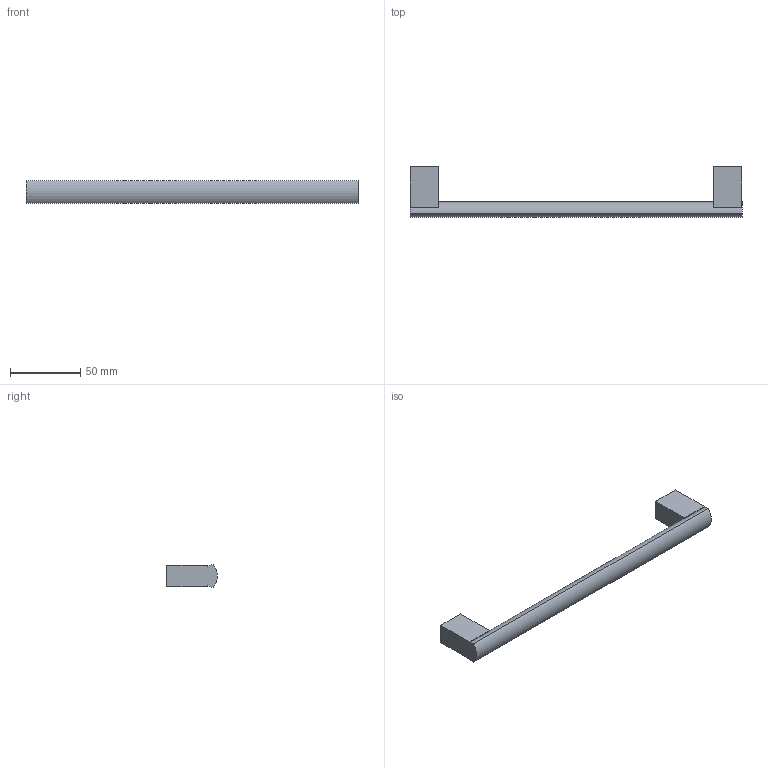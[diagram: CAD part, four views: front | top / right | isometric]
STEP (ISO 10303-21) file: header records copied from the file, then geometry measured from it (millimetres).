
FILE_DESCRIPTION( ( 'STEP AP214' ), '1' );
FILE_NAME( 'D:/Shahbaz D&D/Task/Check and correct handles with 3 drill sockets/Clivia/115206.stp', '2023-02-20T10:39:28', ( '' ), ( '' ), ' ', 'PARTsolutions', ' ' );
FILE_SCHEMA( ( 'AUTOMOTIVE_DESIGN { 1 0 10303 214 1 1 1 1 }' ) );
Length unit declared in the file: millimetre
Products named in the file (1): _115206
Bounding box: 236 x 35.96 x 16 mm (x, y, z)
Volume: 47112.3 mm3; surface area: 14398.1 mm2
Topology: 1 solids, 1 shells, 21 faces, 48 edges, 32 vertices
Faces by surface type: plane 17, cylinder 4
Full cylindrical faces by diameter (mm): 4 x2
Entity records: 768 total; most frequent: DIRECTION 102, CARTESIAN_POINT 100, ORIENTED_EDGE 92, EDGE_CURVE 46, AXIS2_PLACEMENT_3D 34, LINE 34, VECTOR 34, VERTEX_POINT 32
